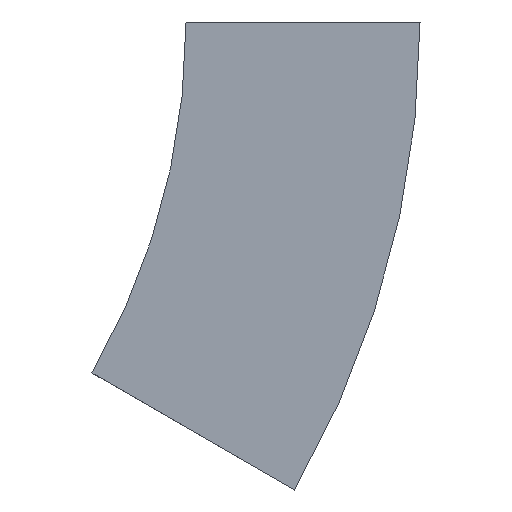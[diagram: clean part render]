
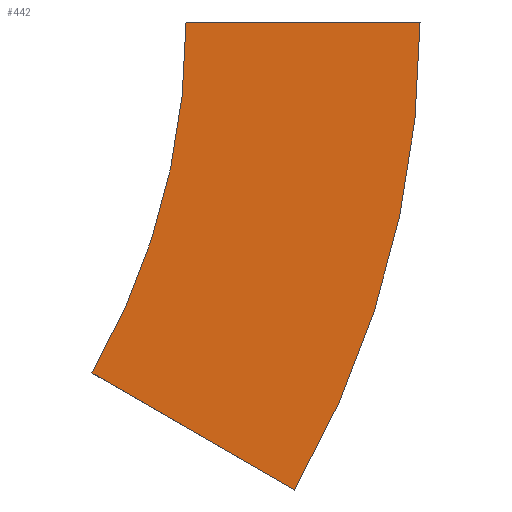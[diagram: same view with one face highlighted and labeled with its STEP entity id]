
A CAD part, left-side view. The second image highlights one B-rep face of the part: STEP entity #442.
In plain terms, the highlighted planar face has unit normal (-1, 0, 0) as drawn and (1, 0, 0) by its records, which use the part's own axes.
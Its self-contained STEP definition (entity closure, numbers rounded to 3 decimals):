
#2 = CARTESIAN_POINT ( 'NONE',  ( 0., -46.41, -200. ) ) ;
#5 = ORIENTED_EDGE ( 'NONE', *, *, #495, .T. ) ;
#24 = CARTESIAN_POINT ( 'NONE',  ( 0., -100., 0. ) ) ;
#28 = DIRECTION ( 'NONE',  ( -1., 0., 0. ) ) ;
#45 = VERTEX_POINT ( 'NONE', #196 ) ;
#48 = EDGE_LOOP ( 'NONE', ( #216, #350, #429, #5 ) ) ;
#51 = VERTEX_POINT ( 'NONE', #115 ) ;
#84 = CARTESIAN_POINT ( 'NONE',  ( 0., 300., 0. ) ) ;
#98 = DIRECTION ( 'NONE',  ( 0., 0.866, 0.5 ) ) ;
#106 = VECTOR ( 'NONE', #416, 1000. ) ;
#114 = DIRECTION ( 'NONE',  ( 0., -1., 0. ) ) ;
#115 = CARTESIAN_POINT ( 'NONE',  ( 0., 0., 0. ) ) ;
#120 = FACE_OUTER_BOUND ( 'NONE', #48, .T. ) ;
#139 = AXIS2_PLACEMENT_3D ( 'NONE', #84, #457, #261 ) ;
#169 = CARTESIAN_POINT ( 'NONE',  ( 0., -100., 0. ) ) ;
#193 = CARTESIAN_POINT ( 'NONE',  ( 0., 300., 0. ) ) ;
#196 = CARTESIAN_POINT ( 'NONE',  ( 0., -46.41, -200. ) ) ;
#205 = LINE ( 'NONE', #545, #106 ) ;
#209 = CARTESIAN_POINT ( 'NONE',  ( 0., 40.192, -150. ) ) ;
#213 = AXIS2_PLACEMENT_3D ( 'NONE', #193, #373, #114 ) ;
#216 = ORIENTED_EDGE ( 'NONE', *, *, #397, .F. ) ;
#261 = DIRECTION ( 'NONE',  ( 0., -1., 0. ) ) ;
#301 = CIRCLE ( 'NONE', #213, 400. ) ;
#350 = ORIENTED_EDGE ( 'NONE', *, *, #432, .F. ) ;
#363 = VERTEX_POINT ( 'NONE', #209 ) ;
#366 = VERTEX_POINT ( 'NONE', #24 ) ;
#373 = DIRECTION ( 'NONE',  ( 1., 0., 0. ) ) ;
#379 = PLANE ( 'NONE',  #414 ) ;
#393 = LINE ( 'NONE', #2, #443 ) ;
#397 = EDGE_CURVE ( 'NONE', #51, #363, #524, .T. ) ;
#414 = AXIS2_PLACEMENT_3D ( 'NONE', #169, #28, #511 ) ;
#416 = DIRECTION ( 'NONE',  ( 0., 1., 0. ) ) ;
#429 = ORIENTED_EDGE ( 'NONE', *, *, #542, .T. ) ;
#432 = EDGE_CURVE ( 'NONE', #366, #51, #205, .T. ) ;
#442 = ADVANCED_FACE ( 'NONE', ( #120 ), #379, .F. ) ;
#443 = VECTOR ( 'NONE', #98, 1000. ) ;
#457 = DIRECTION ( 'NONE',  ( 1., 0., 0. ) ) ;
#495 = EDGE_CURVE ( 'NONE', #45, #363, #393, .T. ) ;
#511 = DIRECTION ( 'NONE',  ( 0., 0., 1. ) ) ;
#524 = CIRCLE ( 'NONE', #139, 300. ) ;
#542 = EDGE_CURVE ( 'NONE', #366, #45, #301, .T. ) ;
#545 = CARTESIAN_POINT ( 'NONE',  ( 0., -100., 0. ) ) ;
